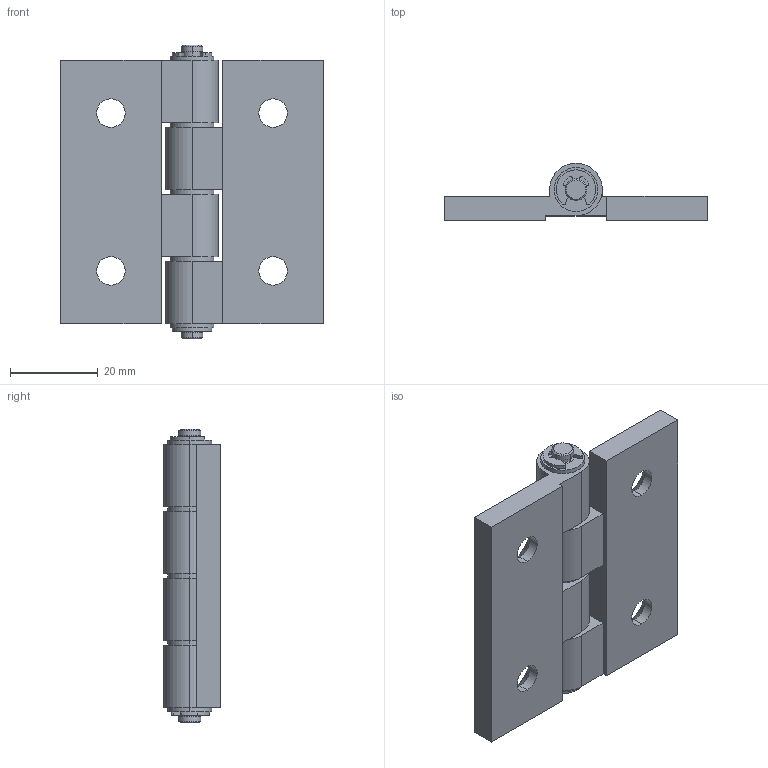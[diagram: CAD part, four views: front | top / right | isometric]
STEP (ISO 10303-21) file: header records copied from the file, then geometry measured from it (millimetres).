
FILE_DESCRIPTION (( 'STEP AP203' ), '1' );
FILE_NAME ('SK2-168-15.STEP', '2020-01-03T01:30:38', ( 'admin' ), ( 'Microsoft' ), 'SwSTEP 2.0', 'SolidWorks 2018', '' );
FILE_SCHEMA (( 'CONFIG_CONTROL_DESIGN' ));
Length unit declared in the file: millimetre
Products named in the file (5): SK2-168-15; 2-168-15-F1; 2-168-15-F3; 2-168-15-F4; e rings gb_GB_CONNECTING_PIECE_RINGS_HR 4
Assembly tree (10 placements, depth 2):
  SK2-168-15
    2-168-15-F1  x2
    2-168-15-F3
    2-168-15-F4  x5
    e rings gb_GB_CONNECTING_PIECE_RINGS_HR 4  x2
Bounding box: 60 x 13 x 67 mm (x, y, z)
Volume: 21585.8 mm3; surface area: 13201.6 mm2
Topology: 10 solids, 10 shells, 156 faces, 384 edges, 252 vertices
Faces by surface type: cylinder 86, plane 58, cone 12
Entity records: 3090 total; most frequent: DIRECTION 469, CARTESIAN_POINT 411, ORIENTED_EDGE 386, EDGE_CURVE 193, AXIS2_PLACEMENT_3D 184, VERTEX_POINT 126, VECTOR 101, LINE 101
